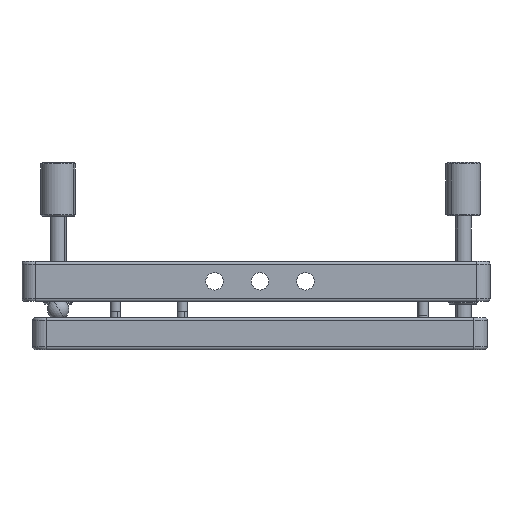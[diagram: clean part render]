
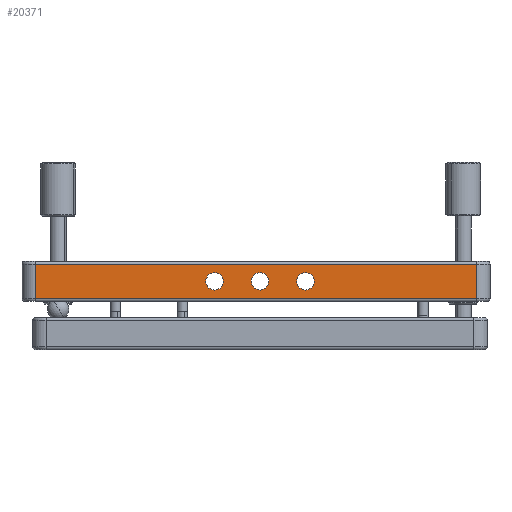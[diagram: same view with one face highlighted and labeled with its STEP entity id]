
A CAD part, front view. The second image highlights one B-rep face of the part: STEP entity #20371.
In plain terms, the highlighted planar face has unit normal (0, -1, 0).
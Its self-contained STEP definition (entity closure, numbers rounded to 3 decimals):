
#333 = CARTESIAN_POINT ( 'NONE',  ( 18.5, -87.5, 0. ) ) ;
#420 = DIRECTION ( 'NONE',  ( 0., 0., 1. ) ) ;
#754 = DIRECTION ( 'NONE',  ( 0., 1., 0. ) ) ;
#1024 = VECTOR ( 'NONE', #2292, 1000. ) ;
#1026 = AXIS2_PLACEMENT_3D ( 'NONE', #24845, #12312, #20771 ) ;
#1738 = ORIENTED_EDGE ( 'NONE', *, *, #11633, .T. ) ;
#1814 = CARTESIAN_POINT ( 'NONE',  ( 82.5, -87.5, -6.5 ) ) ;
#2081 = ORIENTED_EDGE ( 'NONE', *, *, #24591, .T. ) ;
#2292 = DIRECTION ( 'NONE',  ( 0., 0., 1. ) ) ;
#2837 = VECTOR ( 'NONE', #17338, 1000. ) ;
#2868 = EDGE_CURVE ( 'NONE', #23825, #9910, #13053, .T. ) ;
#3104 = AXIS2_PLACEMENT_3D ( 'NONE', #18514, #6180, #24535 ) ;
#3165 = ORIENTED_EDGE ( 'NONE', *, *, #15221, .T. ) ;
#3216 = AXIS2_PLACEMENT_3D ( 'NONE', #13547, #23847, #7701 ) ;
#3331 = CIRCLE ( 'NONE', #1026, 3.25 ) ;
#3451 = CARTESIAN_POINT ( 'NONE',  ( 18.5, -87.5, 0. ) ) ;
#3528 = VERTEX_POINT ( 'NONE', #3591 ) ;
#3591 = CARTESIAN_POINT ( 'NONE',  ( 18.5, -87.5, 3.25 ) ) ;
#5541 = AXIS2_PLACEMENT_3D ( 'NONE', #3451, #15930, #21958 ) ;
#5857 = ORIENTED_EDGE ( 'NONE', *, *, #23379, .T. ) ;
#6003 = CARTESIAN_POINT ( 'NONE',  ( -82.5, -87.5, -6.5 ) ) ;
#6180 = DIRECTION ( 'NONE',  ( 0., 1., 0. ) ) ;
#6772 = VERTEX_POINT ( 'NONE', #13411 ) ;
#7558 = EDGE_CURVE ( 'NONE', #24485, #9048, #19239, .T. ) ;
#7701 = DIRECTION ( 'NONE',  ( 0., 0., 1. ) ) ;
#7769 = DIRECTION ( 'NONE',  ( -1., 0., 0. ) ) ;
#7994 = CARTESIAN_POINT ( 'NONE',  ( 1.5, -87.5, -3.25 ) ) ;
#8258 = CARTESIAN_POINT ( 'NONE',  ( 82.5, -87.5, 6.5 ) ) ;
#8558 = VECTOR ( 'NONE', #15953, 1000. ) ;
#8842 = CARTESIAN_POINT ( 'NONE',  ( -87.5, -87.5, 7.5 ) ) ;
#9048 = VERTEX_POINT ( 'NONE', #22416 ) ;
#9910 = VERTEX_POINT ( 'NONE', #1814 ) ;
#9961 = VECTOR ( 'NONE', #7769, 1000. ) ;
#10034 = CARTESIAN_POINT ( 'NONE',  ( -87.5, -87.5, 6.5 ) ) ;
#10328 = FACE_OUTER_BOUND ( 'NONE', #22624, .T. ) ;
#10444 = ORIENTED_EDGE ( 'NONE', *, *, #14050, .T. ) ;
#10448 = CARTESIAN_POINT ( 'NONE',  ( -15.5, -87.5, -3.25 ) ) ;
#10980 = FACE_BOUND ( 'NONE', #11087, .T. ) ;
#11087 = EDGE_LOOP ( 'NONE', ( #1738, #21884 ) ) ;
#11461 = ORIENTED_EDGE ( 'NONE', *, *, #7558, .T. ) ;
#11633 = EDGE_CURVE ( 'NONE', #3528, #6772, #18589, .T. ) ;
#12312 = DIRECTION ( 'NONE',  ( 0., 1., 0. ) ) ;
#12696 = EDGE_LOOP ( 'NONE', ( #5857, #11461 ) ) ;
#12814 = LINE ( 'NONE', #10034, #9961 ) ;
#12950 = CIRCLE ( 'NONE', #5541, 3.25 ) ;
#13053 = LINE ( 'NONE', #16223, #8558 ) ;
#13292 = CIRCLE ( 'NONE', #16347, 3.25 ) ;
#13411 = CARTESIAN_POINT ( 'NONE',  ( 18.5, -87.5, -3.25 ) ) ;
#13547 = CARTESIAN_POINT ( 'NONE',  ( 1.5, -87.5, 0. ) ) ;
#13550 = CIRCLE ( 'NONE', #3216, 3.25 ) ;
#14050 = EDGE_CURVE ( 'NONE', #22439, #23825, #15279, .T. ) ;
#14433 = VERTEX_POINT ( 'NONE', #22968 ) ;
#14711 = LINE ( 'NONE', #14770, #1024 ) ;
#14717 = EDGE_LOOP ( 'NONE', ( #16000, #2081 ) ) ;
#14754 = ORIENTED_EDGE ( 'NONE', *, *, #26136, .T. ) ;
#14770 = CARTESIAN_POINT ( 'NONE',  ( 82.5, -87.5, 7.5 ) ) ;
#15221 = EDGE_CURVE ( 'NONE', #9910, #20825, #14711, .T. ) ;
#15279 = LINE ( 'NONE', #25401, #2837 ) ;
#15930 = DIRECTION ( 'NONE',  ( 0., 1., 0. ) ) ;
#15953 = DIRECTION ( 'NONE',  ( 1., 0., 0. ) ) ;
#16000 = ORIENTED_EDGE ( 'NONE', *, *, #24366, .T. ) ;
#16223 = CARTESIAN_POINT ( 'NONE',  ( 82.5, -87.5, -6.5 ) ) ;
#16347 = AXIS2_PLACEMENT_3D ( 'NONE', #25009, #754, #20932 ) ;
#16409 = FACE_BOUND ( 'NONE', #12696, .T. ) ;
#16716 = ORIENTED_EDGE ( 'NONE', *, *, #2868, .T. ) ;
#17338 = DIRECTION ( 'NONE',  ( 0., 0., -1. ) ) ;
#18007 = FACE_BOUND ( 'NONE', #14717, .T. ) ;
#18514 = CARTESIAN_POINT ( 'NONE',  ( -15.5, -87.5, 0. ) ) ;
#18589 = CIRCLE ( 'NONE', #21102, 3.25 ) ;
#18801 = VERTEX_POINT ( 'NONE', #7994 ) ;
#18852 = CARTESIAN_POINT ( 'NONE',  ( -82.5, -87.5, 6.5 ) ) ;
#19239 = CIRCLE ( 'NONE', #3104, 3.25 ) ;
#19255 = EDGE_CURVE ( 'NONE', #6772, #3528, #12950, .T. ) ;
#20371 = ADVANCED_FACE ( 'NONE', ( #18007, #16409, #10980, #10328 ), #21050, .F. ) ;
#20502 = DIRECTION ( 'NONE',  ( 0., 1., 0. ) ) ;
#20771 = DIRECTION ( 'NONE',  ( 0., 0., 1. ) ) ;
#20825 = VERTEX_POINT ( 'NONE', #8258 ) ;
#20932 = DIRECTION ( 'NONE',  ( 0., 0., 1. ) ) ;
#21050 = PLANE ( 'NONE',  #22116 ) ;
#21102 = AXIS2_PLACEMENT_3D ( 'NONE', #333, #20502, #420 ) ;
#21884 = ORIENTED_EDGE ( 'NONE', *, *, #19255, .T. ) ;
#21958 = DIRECTION ( 'NONE',  ( 0., 0., 1. ) ) ;
#22116 = AXIS2_PLACEMENT_3D ( 'NONE', #8842, #24859, #24695 ) ;
#22416 = CARTESIAN_POINT ( 'NONE',  ( -15.5, -87.5, 3.25 ) ) ;
#22439 = VERTEX_POINT ( 'NONE', #18852 ) ;
#22624 = EDGE_LOOP ( 'NONE', ( #10444, #16716, #3165, #14754 ) ) ;
#22968 = CARTESIAN_POINT ( 'NONE',  ( 1.5, -87.5, 3.25 ) ) ;
#23379 = EDGE_CURVE ( 'NONE', #9048, #24485, #13292, .T. ) ;
#23825 = VERTEX_POINT ( 'NONE', #6003 ) ;
#23847 = DIRECTION ( 'NONE',  ( 0., 1., 0. ) ) ;
#24366 = EDGE_CURVE ( 'NONE', #14433, #18801, #3331, .T. ) ;
#24485 = VERTEX_POINT ( 'NONE', #10448 ) ;
#24535 = DIRECTION ( 'NONE',  ( 0., 0., 1. ) ) ;
#24591 = EDGE_CURVE ( 'NONE', #18801, #14433, #13550, .T. ) ;
#24695 = DIRECTION ( 'NONE',  ( 0., 0., 1. ) ) ;
#24845 = CARTESIAN_POINT ( 'NONE',  ( 1.5, -87.5, 0. ) ) ;
#24859 = DIRECTION ( 'NONE',  ( 0., 1., 0. ) ) ;
#25009 = CARTESIAN_POINT ( 'NONE',  ( -15.5, -87.5, 0. ) ) ;
#25401 = CARTESIAN_POINT ( 'NONE',  ( -82.5, -87.5, 7.5 ) ) ;
#26136 = EDGE_CURVE ( 'NONE', #20825, #22439, #12814, .T. ) ;
